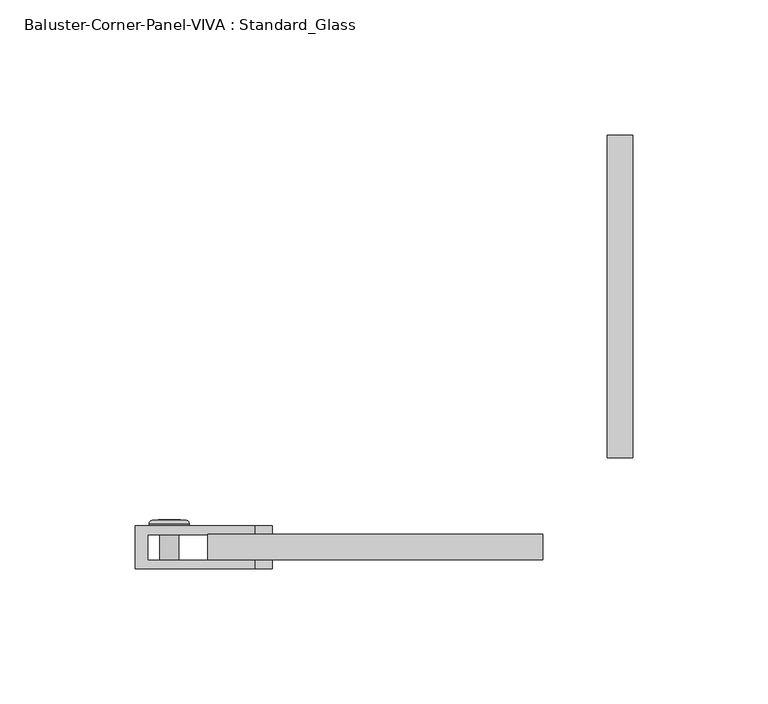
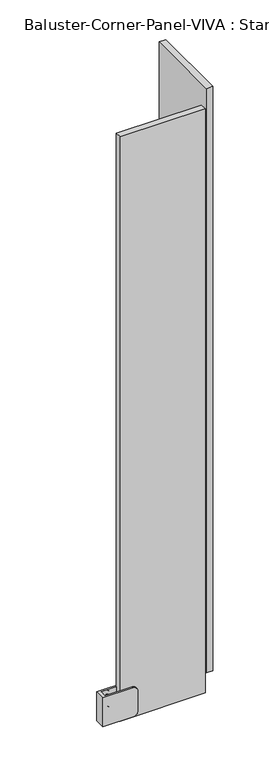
"""IFC4 building model written with IfcOpenShell, lengths in millimetres: railing geometry, Baluster-Corner-Panel-VIVA : Standard_Glass."""

from ifc_helpers import new_model, si_unit, point, frame, origin, place, context, project, spatial, polyline, circle_curve, ellipse_curve, trimmed, outline, extrude, source, transform, mapped, element, save
from ifc_brep_helpers import plane_surface, cylinder_surface, revolved_surface, advanced_brep


def baluster_corner_panel_viva_standard_glass_c882a37e(model_context):
    return source(origin(), model_context, "Body", "SolidModel", [
        advanced_brep(
        [(-138.3709569, -36.7665, 138.7358896), (-138.3709569, -24.0665, 138.7358896), (-131.280065, -24.0665, 138.7358896), (-131.280065, -36.7665, 138.7358896), (-142.2333, -24.0665, 138.7358896), (-127.4177219, -24.0665, 138.7358896), (-136.4815863, -23.199388, 138.7358896), (-136.4815863, -36.7665, 138.7358896), (-133.1694356, -36.7665, 138.7358896), (-133.1694356, -23.199388, 138.7358896), (-142.2333, -23.2316551, 138.7358896), (-140.952028, -21.9503831, 138.7358896), (-128.6989939, -21.9503831, 138.7358896), (-127.4177219, -23.2316551, 138.7358896), (-139.1241065, -21.9503831, 138.7358896), (-130.5269154, -21.9503831, 138.7358896), (-139.1241065, -23.199388, 138.7358896), (-130.5269154, -23.199388, 138.7358896)],
        [
            (0, 1),
            (1, 2, circle_curve(frame((-134.825511, -24.0665, 138.7358896), z_axis=(0.0, -1.0, 0.0), x_axis=(1.0, 0.0, 0.0)), 3.5454459)),
            (2, 3),
            (3, 0, circle_curve(frame((-134.825511, -36.7665, 138.7358896), z_axis=(0.0, 1.0, 0.0), x_axis=(1.0, 0.0, 0.0)), 3.5454459)),
            (2, 1, circle_curve(frame((-134.825511, -24.0665, 138.7358896), z_axis=(0.0, -1.0, 0.0), x_axis=(1.0, 0.0, 0.0)), 3.5454459)),
            (0, 3, circle_curve(frame((-134.825511, -36.7665, 138.7358896), z_axis=(0.0, 1.0, 0.0), x_axis=(1.0, 0.0, 0.0)), 3.5454459)),
            (1, 4),
            (4, 5, circle_curve(frame((-134.825511, -24.0665, 138.7358896), z_axis=(0.0, -1.0, 0.0), x_axis=(1.0, 0.0, 0.0)), 7.4077891)),
            (5, 2),
            (5, 4, circle_curve(frame((-134.825511, -24.0665, 138.7358896), z_axis=(0.0, -1.0, 0.0), x_axis=(1.0, 0.0, 0.0)), 7.4077891)),
            (6, 7),
            (7, 8, circle_curve(frame((-134.825511, -36.7665, 138.7358896), z_axis=(0.0, -1.0, 0.0), x_axis=(1.0, 0.0, 0.0)), 1.6560754)),
            (8, 9),
            (9, 6, circle_curve(frame((-134.825511, -23.199388, 138.7358896), z_axis=(0.0, 1.0, 0.0), x_axis=(1.0, 0.0, 0.0)), 1.6560754)),
            (8, 7, circle_curve(frame((-134.825511, -36.7665, 138.7358896), z_axis=(0.0, -1.0, 0.0), x_axis=(1.0, 0.0, 0.0)), 1.6560754)),
            (6, 9, circle_curve(frame((-134.825511, -23.199388, 138.7358896), z_axis=(0.0, 1.0, 0.0), x_axis=(1.0, 0.0, 0.0)), 1.6560754)),
            (10, 11, circle_curve(frame((-140.952028, -23.2316551, 138.7358896), z_axis=(0.0, 0.0, -1.0), x_axis=(-1.0, 0.0, 0.0)), 1.281272)),
            (11, 12, circle_curve(frame((-134.825511, -21.9503831, 138.7358896), z_axis=(0.0, -1.0, 0.0), x_axis=(1.0, 0.0, 0.0)), 6.1265171)),
            (12, 13, circle_curve(frame((-128.6989939, -23.2316551, 138.7358896), z_axis=(0.0, 0.0, -1.0), x_axis=(1.0, 0.0, 0.0)), 1.281272)),
            (13, 10, circle_curve(frame((-134.825511, -23.2316551, 138.7358896), z_axis=(0.0, 1.0, 0.0), x_axis=(1.0, 0.0, 0.0)), 7.4077891)),
            (12, 11, circle_curve(frame((-134.825511, -21.9503831, 138.7358896), z_axis=(0.0, -1.0, 0.0), x_axis=(1.0, 0.0, 0.0)), 6.1265171)),
            (10, 13, circle_curve(frame((-134.825511, -23.2316551, 138.7358896), z_axis=(0.0, 1.0, 0.0), x_axis=(1.0, 0.0, 0.0)), 7.4077891)),
            (11, 14),
            (14, 15, circle_curve(frame((-134.825511, -21.9503831, 138.7358896), z_axis=(0.0, -1.0, 0.0), x_axis=(1.0, 0.0, 0.0)), 4.2985955)),
            (15, 12),
            (15, 14, circle_curve(frame((-134.825511, -21.9503831, 138.7358896), z_axis=(0.0, -1.0, 0.0), x_axis=(1.0, 0.0, 0.0)), 4.2985955)),
            (4, 10),
            (13, 5),
            (7, 0),
            (3, 8),
            (14, 16),
            (16, 17, circle_curve(frame((-134.825511, -23.199388, 138.7358896), z_axis=(0.0, -1.0, 0.0), x_axis=(1.0, 0.0, 0.0)), 4.2985955)),
            (17, 15),
            (17, 16, circle_curve(frame((-134.825511, -23.199388, 138.7358896), z_axis=(0.0, -1.0, 0.0), x_axis=(1.0, 0.0, 0.0)), 4.2985955)),
            (16, 6),
            (9, 17),
        ],
        [
            cylinder_surface(frame((-134.825511, -27.5632331, 138.7358896), z_axis=(0.0, -1.0, 0.0), x_axis=(1.0, 0.0, 0.0)), 3.5454459),
            plane_surface(frame((-134.825511, -24.0665, 138.7358896), z_axis=(0.0, -1.0, 0.0), x_axis=(1.0, 0.0, 0.0))),
            revolved_surface(polyline([(-133.1694356, -36.7665, 138.7358896), (-133.1694356, -23.199388, 138.7358896)]), (-134.825511, -27.5632331, 138.7358896), (0.0, -1.0, 0.0)),
            revolved_surface(trimmed(ellipse_curve(frame((-128.6989939, -23.2316551, 138.7358896), z_axis=(0.0, 0.0, -1.0), x_axis=(1.0, 0.0, 0.0)), 1.281272, 1.281272), [point((-128.6989939, -21.9503831, 138.7358896))], [point((-127.4177219, -23.2316551, 138.7358896))], True, "CARTESIAN"), (-134.825511, -27.5632331, 138.7358896), (0.0, -1.0, 0.0)),
            plane_surface(frame((-134.825511, -21.9503831, 138.7358896), z_axis=(0.0, 1.0, 0.0), x_axis=(1.0, 0.0, 0.0))),
            cylinder_surface(frame((-134.825511, -27.5632331, 138.7358896), z_axis=(0.0, -1.0, 0.0), x_axis=(1.0, 0.0, 0.0)), 7.4077891),
            plane_surface(frame((-134.825511, -36.7665, 138.7358896), z_axis=(0.0, -1.0, 0.0), x_axis=(1.0, 0.0, 0.0))),
            revolved_surface(polyline([(-130.5269155, -23.199388, 138.7358896), (-130.5269155, -21.9503831, 138.7358896)]), (-134.825511, -27.5632331, 138.7358896), (0.0, -1.0, 0.0)),
            plane_surface(frame((-134.825511, -23.199388, 138.7358896), z_axis=(0.0, 1.0, 0.0), x_axis=(1.0, 0.0, 0.0))),
        ],
        [
            (0, [[1, 2, 3, 4]]),
            (0, [[-3, 5, -1, 6]]),
            (1, [[7, 8, 9, -2]]),
            (1, [[-9, 10, -7, -5]]),
            (2, [[11, 12, 13, 14]]),
            (2, [[-13, 15, -11, 16]]),
            (3, [[17, 18, 19, 20]]),
            (3, [[-19, 21, -17, 22]]),
            (4, [[23, 24, 25, -18]]),
            (4, [[-25, 26, -23, -21]]),
            (5, [[27, -20, 28, -8]]),
            (5, [[-28, -22, -27, -10]]),
            (6, [[29, -4, 30, -12]]),
            (6, [[-30, -6, -29, -15]]),
            (7, [[31, 32, 33, -24]]),
            (7, [[-33, 34, -31, -26]]),
            (8, [[35, -14, 36, -32]]),
            (8, [[-36, -16, -35, -34]]),
        ],
    ),
        advanced_brep(
        [(-138.3709569, -36.7665, 114.1296396), (-138.3709569, -24.0665, 114.1296396), (-131.280065, -24.0665, 114.1296396), (-131.280065, -36.7665, 114.1296396), (-142.2333, -24.0665, 114.1296396), (-127.4177219, -24.0665, 114.1296396), (-136.4815863, -23.199388, 114.1296396), (-136.4815863, -36.7665, 114.1296396), (-133.1694356, -36.7665, 114.1296396), (-133.1694356, -23.199388, 114.1296396), (-142.2333, -23.2316551, 114.1296396), (-140.952028, -21.9503831, 114.1296396), (-128.6989939, -21.9503831, 114.1296396), (-127.4177219, -23.2316551, 114.1296396), (-139.1241065, -21.9503831, 114.1296396), (-130.5269154, -21.9503831, 114.1296396), (-139.1241065, -23.199388, 114.1296396), (-130.5269154, -23.199388, 114.1296396)],
        [
            (0, 1),
            (1, 2, circle_curve(frame((-134.825511, -24.0665, 114.1296396), z_axis=(0.0, -1.0, 0.0), x_axis=(1.0, 0.0, 0.0)), 3.5454459)),
            (2, 3),
            (3, 0, circle_curve(frame((-134.825511, -36.7665, 114.1296396), z_axis=(0.0, 1.0, 0.0), x_axis=(1.0, 0.0, 0.0)), 3.5454459)),
            (2, 1, circle_curve(frame((-134.825511, -24.0665, 114.1296396), z_axis=(0.0, -1.0, 0.0), x_axis=(1.0, 0.0, 0.0)), 3.5454459)),
            (0, 3, circle_curve(frame((-134.825511, -36.7665, 114.1296396), z_axis=(0.0, 1.0, 0.0), x_axis=(1.0, 0.0, 0.0)), 3.5454459)),
            (1, 4),
            (4, 5, circle_curve(frame((-134.825511, -24.0665, 114.1296396), z_axis=(0.0, -1.0, 0.0), x_axis=(1.0, 0.0, 0.0)), 7.4077891)),
            (5, 2),
            (5, 4, circle_curve(frame((-134.825511, -24.0665, 114.1296396), z_axis=(0.0, -1.0, 0.0), x_axis=(1.0, 0.0, 0.0)), 7.4077891)),
            (6, 7),
            (7, 8, circle_curve(frame((-134.825511, -36.7665, 114.1296396), z_axis=(0.0, -1.0, 0.0), x_axis=(1.0, 0.0, 0.0)), 1.6560754)),
            (8, 9),
            (9, 6, circle_curve(frame((-134.825511, -23.199388, 114.1296396), z_axis=(0.0, 1.0, 0.0), x_axis=(1.0, 0.0, 0.0)), 1.6560754)),
            (8, 7, circle_curve(frame((-134.825511, -36.7665, 114.1296396), z_axis=(0.0, -1.0, 0.0), x_axis=(1.0, 0.0, 0.0)), 1.6560754)),
            (6, 9, circle_curve(frame((-134.825511, -23.199388, 114.1296396), z_axis=(0.0, 1.0, 0.0), x_axis=(1.0, 0.0, 0.0)), 1.6560754)),
            (10, 11, circle_curve(frame((-140.952028, -23.2316551, 114.1296396), z_axis=(0.0, 0.0, -1.0), x_axis=(-1.0, 0.0, 0.0)), 1.281272)),
            (11, 12, circle_curve(frame((-134.825511, -21.9503831, 114.1296396), z_axis=(0.0, -1.0, 0.0), x_axis=(1.0, 0.0, 0.0)), 6.1265171)),
            (12, 13, circle_curve(frame((-128.6989939, -23.2316551, 114.1296396), z_axis=(0.0, 0.0, -1.0), x_axis=(1.0, 0.0, 0.0)), 1.281272)),
            (13, 10, circle_curve(frame((-134.825511, -23.2316551, 114.1296396), z_axis=(0.0, 1.0, 0.0), x_axis=(1.0, 0.0, 0.0)), 7.4077891)),
            (12, 11, circle_curve(frame((-134.825511, -21.9503831, 114.1296396), z_axis=(0.0, -1.0, 0.0), x_axis=(1.0, 0.0, 0.0)), 6.1265171)),
            (10, 13, circle_curve(frame((-134.825511, -23.2316551, 114.1296396), z_axis=(0.0, 1.0, 0.0), x_axis=(1.0, 0.0, 0.0)), 7.4077891)),
            (11, 14),
            (14, 15, circle_curve(frame((-134.825511, -21.9503831, 114.1296396), z_axis=(0.0, -1.0, 0.0), x_axis=(1.0, 0.0, 0.0)), 4.2985955)),
            (15, 12),
            (15, 14, circle_curve(frame((-134.825511, -21.9503831, 114.1296396), z_axis=(0.0, -1.0, 0.0), x_axis=(1.0, 0.0, 0.0)), 4.2985955)),
            (7, 0),
            (3, 8),
            (4, 10),
            (13, 5),
            (14, 16),
            (16, 17, circle_curve(frame((-134.825511, -23.199388, 114.1296396), z_axis=(0.0, -1.0, 0.0), x_axis=(1.0, 0.0, 0.0)), 4.2985955)),
            (17, 15),
            (17, 16, circle_curve(frame((-134.825511, -23.199388, 114.1296396), z_axis=(0.0, -1.0, 0.0), x_axis=(1.0, 0.0, 0.0)), 4.2985955)),
            (16, 6),
            (9, 17),
        ],
        [
            cylinder_surface(frame((-134.825511, -27.5632331, 114.1296396), z_axis=(0.0, -1.0, 0.0), x_axis=(1.0, 0.0, 0.0)), 3.5454459),
            plane_surface(frame((-134.825511, -24.0665, 114.1296396), z_axis=(0.0, -1.0, 0.0), x_axis=(1.0, 0.0, 0.0))),
            revolved_surface(polyline([(-133.1694356, -36.7665, 114.1296396), (-133.1694356, -23.199388, 114.1296396)]), (-134.825511, -27.5632331, 114.1296396), (0.0, -1.0, 0.0)),
            revolved_surface(trimmed(ellipse_curve(frame((-128.6989939, -23.2316551, 114.1296396), z_axis=(0.0, 0.0, -1.0), x_axis=(1.0, 0.0, 0.0)), 1.281272, 1.281272), [point((-128.6989939, -21.9503831, 114.1296396))], [point((-127.4177219, -23.2316551, 114.1296396))], True, "CARTESIAN"), (-134.825511, -27.5632331, 114.1296396), (0.0, -1.0, 0.0)),
            plane_surface(frame((-134.825511, -21.9503831, 114.1296396), z_axis=(0.0, 1.0, 0.0), x_axis=(1.0, 0.0, 0.0))),
            plane_surface(frame((-134.825511, -36.7665, 114.1296396), z_axis=(0.0, -1.0, 0.0), x_axis=(1.0, 0.0, 0.0))),
            cylinder_surface(frame((-134.825511, -27.5632331, 114.1296396), z_axis=(0.0, -1.0, 0.0), x_axis=(1.0, 0.0, 0.0)), 7.4077891),
            revolved_surface(polyline([(-130.5269155, -23.199388, 114.1296396), (-130.5269155, -21.9503831, 114.1296396)]), (-134.825511, -27.5632331, 114.1296396), (0.0, -1.0, 0.0)),
            plane_surface(frame((-134.825511, -23.199388, 114.1296396), z_axis=(0.0, 1.0, 0.0), x_axis=(1.0, 0.0, 0.0))),
        ],
        [
            (0, [[1, 2, 3, 4]]),
            (0, [[-3, 5, -1, 6]]),
            (1, [[7, 8, 9, -2]]),
            (1, [[-9, 10, -7, -5]]),
            (2, [[11, 12, 13, 14]]),
            (2, [[-13, 15, -11, 16]]),
            (3, [[17, 18, 19, 20]]),
            (3, [[-19, 21, -17, 22]]),
            (4, [[23, 24, 25, -18]]),
            (4, [[-25, 26, -23, -21]]),
            (5, [[27, -4, 28, -12]]),
            (5, [[-28, -6, -27, -15]]),
            (6, [[29, -20, 30, -8]]),
            (6, [[-30, -22, -29, -10]]),
            (7, [[31, 32, 33, -24]]),
            (7, [[-33, 34, -31, -26]]),
            (8, [[35, -14, 36, -32]]),
            (8, [[-36, -16, -35, -34]]),
        ],
    ),
        extrude(outline(polyline([(114.1296396, -138.9194392), (110.5841937, -136.8724751), (110.5841937, -132.7785468), (114.1296396, -130.7315827), (117.6750855, -132.7785468), (117.6750855, -136.8724751), (114.1296396, -138.9194392)])), frame((0.0, -23.199388, 0.0), z_axis=(0.0, 1.0, 0.0), x_axis=(0.0, 0.0, 1.0)), (0.0, 0.0, 1.0), 1.4969696),
        advanced_brep(
        [(-147.4588557, -24.0665, 148.6577646), (-103.0088557, -24.0665, 148.6577646), (-96.6588557, -24.0665, 142.3077646), (-96.6588557, -24.0665, 110.5577646), (-103.0088557, -24.0665, 104.2077646), (-147.4588557, -24.0665, 104.2077646), (-147.4588557, -39.9415, 148.6577646), (-147.4588557, -39.9415, 104.2077646), (-103.0088557, -39.9415, 104.2077646), (-96.6588557, -39.9415, 110.5577646), (-96.6588557, -39.9415, 142.3077646), (-103.0088557, -39.9415, 148.6577646), (-103.0088557, -27.2415, 104.2077646), (-142.7407753, -27.2415, 104.2077646), (-142.7407753, -36.7665, 104.2077646), (-103.0088557, -36.7665, 104.2077646), (-142.7407753, -27.2415, 148.6577646), (-142.7407753, -36.7665, 148.6577646), (-96.6588557, -27.2415, 110.5577646), (-96.6588557, -27.2415, 142.3077646), (-103.0088557, -27.2415, 148.6577646), (-103.0088557, -36.7665, 148.6577646), (-96.6588557, -36.7665, 142.3077646), (-96.6588557, -36.7665, 110.5577646)],
        [
            (0, 1),
            (1, 2, circle_curve(frame((-103.0088557, -24.0665, 142.3077646), z_axis=(0.0, 1.0, 0.0), x_axis=(1.0, 0.0, 0.0)), 6.35)),
            (2, 3),
            (3, 4, circle_curve(frame((-103.0088557, -24.0665, 110.5577646), z_axis=(0.0, 1.0, 0.0), x_axis=(1.0, 0.0, 0.0)), 6.35)),
            (4, 5),
            (5, 0),
            (6, 7),
            (7, 8),
            (8, 9, circle_curve(frame((-103.0088557, -39.9415, 110.5577646), z_axis=(0.0, -1.0, 0.0), x_axis=(1.0, 0.0, 0.0)), 6.35)),
            (9, 10),
            (10, 11, circle_curve(frame((-103.0088557, -39.9415, 142.3077646), z_axis=(0.0, -1.0, 0.0), x_axis=(1.0, 0.0, 0.0)), 6.35)),
            (11, 6),
            (5, 7),
            (6, 0),
            (4, 12),
            (12, 13),
            (13, 14),
            (14, 15),
            (15, 8),
            (13, 16),
            (16, 17),
            (17, 14),
            (12, 18, circle_curve(frame((-103.0088557, -27.2415, 110.5577646), z_axis=(0.0, -1.0, 0.0), x_axis=(1.0, 0.0, 0.0)), 6.35)),
            (18, 19),
            (19, 20, circle_curve(frame((-103.0088557, -27.2415, 142.3077646), z_axis=(0.0, -1.0, 0.0), x_axis=(1.0, 0.0, 0.0)), 6.35)),
            (20, 16),
            (17, 21),
            (21, 22, circle_curve(frame((-103.0088557, -36.7665, 142.3077646), z_axis=(0.0, 1.0, 0.0), x_axis=(1.0, 0.0, 0.0)), 6.35)),
            (22, 23),
            (23, 15, circle_curve(frame((-103.0088557, -36.7665, 110.5577646), z_axis=(0.0, 1.0, 0.0), x_axis=(1.0, 0.0, 0.0)), 6.35)),
            (23, 9),
            (3, 18),
            (22, 10),
            (2, 19),
            (21, 11),
            (1, 20),
        ],
        [
            plane_surface(frame((-147.4588557, -24.0665, 104.2077646), z_axis=(0.0, 1.0, 0.0), x_axis=(0.0, 0.0, -1.0))),
            plane_surface(frame((-147.4588557, -39.9415, 104.2077646), z_axis=(0.0, -1.0, 0.0), x_axis=(0.0, 0.0, 1.0))),
            plane_surface(frame((-147.4588557, -24.0665, 148.6577646), z_axis=(-1.0, 0.0, 0.0), x_axis=(0.0, -1.0, 0.0))),
            plane_surface(frame((-147.4588557, -24.0665, 104.2077646), z_axis=(0.0, 0.0, -1.0), x_axis=(0.0, -1.0, 0.0))),
            plane_surface(frame((-142.7407753, -36.7665, 161.3577646), z_axis=(1.0, 0.0, 0.0), x_axis=(0.0, 0.0, -1.0))),
            plane_surface(frame((-142.7407753, -27.2415, 161.3577646), z_axis=(0.0, -1.0, 0.0), x_axis=(0.0, 0.0, -1.0))),
            plane_surface(frame((-83.9588557, -36.7665, 161.3577646), z_axis=(0.0, 1.0, 0.0), x_axis=(0.0, 0.0, -1.0))),
            cylinder_surface(frame((-103.0088557, -39.9415, 110.5577646), z_axis=(0.0, 1.0, 0.0), x_axis=(1.0, 0.0, 0.0)), 6.35),
            plane_surface(frame((-96.6588557, -24.0665, 110.5577646), z_axis=(1.0, 0.0, 0.0), x_axis=(0.0, -1.0, 0.0))),
            cylinder_surface(frame((-103.0088557, -39.9415, 142.3077646), z_axis=(0.0, 1.0, 0.0), x_axis=(1.0, 0.0, 0.0)), 6.35),
            plane_surface(frame((-103.0088557, -24.0665, 148.6577646), z_axis=(0.0, 0.0, 1.0), x_axis=(0.0, -1.0, 0.0))),
        ],
        [
            (0, [[1, 2, 3, 4, 5, 6]]),
            (1, [[7, 8, 9, 10, 11, 12]]),
            (2, [[13, -7, 14, -6]]),
            (3, [[15, 16, 17, 18, 19, -8, -13, -5]]),
            (4, [[-17, 20, 21, 22]]),
            (5, [[-16, 23, 24, 25, 26, -20]]),
            (6, [[27, 28, 29, 30, -18, -22]]),
            (7, [[-19, -30, 31, -9]]),
            (7, [[32, -23, -15, -4]]),
            (8, [[-31, -29, 33, -10]]),
            (8, [[34, -24, -32, -3]]),
            (9, [[-33, -28, 35, -11]]),
            (9, [[36, -25, -34, -2]]),
            (10, [[-14, -12, -35, -27, -21, -26, -36, -1]]),
        ],
    ),
        extrude(outline(polyline([(36.7665, 1.0851207), (27.2415, 1.0851207), (27.2415, 120.4393811), (36.7665, 120.4393811), (36.7665, 1.0851207)])), frame((0.0, 0.0, 101.6), z_axis=(0.0, 0.0, 1.0), x_axis=(1.0, 0.0, 0.0)), (0.0, 0.0, 1.0), 901.7),
        extrude(outline(polyline([(-120.5157753, -36.7665), (-120.5157753, -27.2415), (3.429, -27.2415), (3.429, -36.7665), (-120.5157753, -36.7665)])), frame((0.0, 0.0, 101.6), z_axis=(0.0, 0.0, 1.0), x_axis=(1.0, 0.0, 0.0)), (0.0, 0.0, 1.0), 901.7),
    ])


if __name__ == "__main__":
    model = new_model("IFC4")
    model_context = context("Model", 3, world=origin())
    ifc_project = project(units=[si_unit("LENGTHUNIT", "METRE", prefix="MILLI")], contexts=[model_context])
    site = spatial("IfcSite", under=ifc_project)
    building = spatial("IfcBuilding", under=site)
    placement = place(None, origin())
    baluster_corner_panel_viva_standard_glass_shape = baluster_corner_panel_viva_standard_glass_c882a37e(model_context)
    element("IfcRailing", 1, ObjectType="Baluster-Corner-Panel-VIVA : Standard_Glass", at=placement, inside=building, context=model_context, shape_type="MappedRepresentation", body=[
        mapped(baluster_corner_panel_viva_standard_glass_shape, transform((0.0, 0.0, 0.0), x_axis=(1.0, 0.0, 0.0), y_axis=(0.0, 1.0, 0.0), z_axis=(0.0, 0.0, 1.0))),
    ])
    save(model, "model.ifc")
